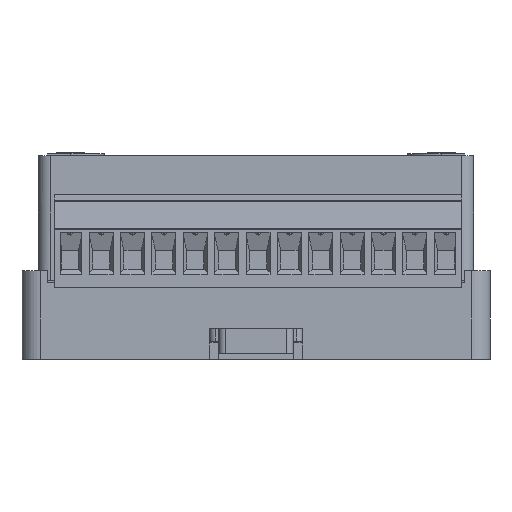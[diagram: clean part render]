
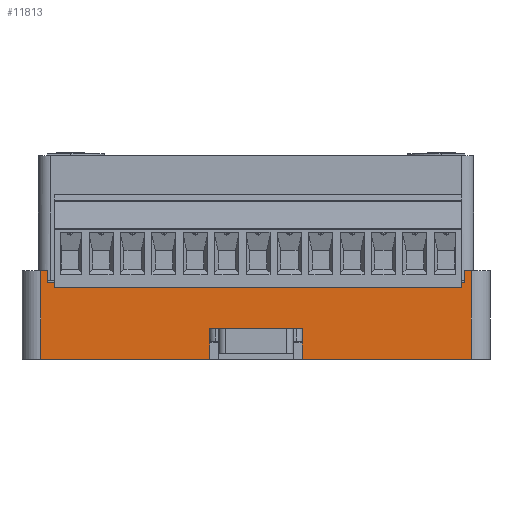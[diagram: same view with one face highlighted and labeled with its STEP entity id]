
A CAD part, front view. The second image highlights one B-rep face of the part: STEP entity #11813.
In plain terms, the highlighted planar face has unit normal (0, -1, 0).
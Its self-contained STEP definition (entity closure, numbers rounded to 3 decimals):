
#11813=ADVANCED_FACE('',(#67825),#67827,.F.);
#67825=FACE_BOUND('',#67826,.T.);
#67826=EDGE_LOOP('',(#109851,#109852,#109853,#109854,#109855,#109856,#109857,#109858,
#109859,#109860,#109861,#109862,#109863,#109864,#109865,#109866));
#67827=PLANE('',#67828);
#67828=AXIS2_PLACEMENT_3D('',#67829,#67830,#67831);
#67829=CARTESIAN_POINT('',(-37.9,-51.95,14.4));
#67830=DIRECTION('',(0.,1.,0.));
#67831=DIRECTION('',(0.,0.,1.));
#109851=ORIENTED_EDGE('',*,*,#152142,.F.);
#109852=ORIENTED_EDGE('',*,*,#152143,.F.);
#109853=ORIENTED_EDGE('',*,*,#152144,.T.);
#109854=ORIENTED_EDGE('',*,*,#152145,.T.);
#109855=ORIENTED_EDGE('',*,*,#152146,.T.);
#109856=ORIENTED_EDGE('',*,*,#151121,.F.);
#109857=ORIENTED_EDGE('',*,*,#151153,.T.);
#109858=ORIENTED_EDGE('',*,*,#151151,.F.);
#109859=ORIENTED_EDGE('',*,*,#151150,.T.);
#109860=ORIENTED_EDGE('',*,*,#151137,.F.);
#109861=ORIENTED_EDGE('',*,*,#152147,.T.);
#109862=ORIENTED_EDGE('',*,*,#152148,.T.);
#109863=ORIENTED_EDGE('',*,*,#152149,.F.);
#109864=ORIENTED_EDGE('',*,*,#152150,.F.);
#109865=ORIENTED_EDGE('',*,*,#152151,.F.);
#109866=ORIENTED_EDGE('',*,*,#151157,.F.);
#151121=EDGE_CURVE('',#170690,#170692,#170693,.T.);
#151137=EDGE_CURVE('',#170719,#170711,#170721,.T.);
#151150=EDGE_CURVE('',#170739,#170711,#170741,.T.);
#151151=EDGE_CURVE('',#170739,#170742,#170743,.T.);
#151153=EDGE_CURVE('',#170690,#170742,#170745,.T.);
#151157=EDGE_CURVE('',#170749,#170751,#170752,.T.);
#152142=EDGE_CURVE('',#172316,#170749,#172317,.T.);
#152143=EDGE_CURVE('',#172318,#172316,#172319,.T.);
#152144=EDGE_CURVE('',#172318,#172320,#172321,.T.);
#152145=EDGE_CURVE('',#172320,#172322,#172323,.T.);
#152146=EDGE_CURVE('',#172322,#170692,#172324,.T.);
#152147=EDGE_CURVE('',#170719,#172325,#172326,.T.);
#152148=EDGE_CURVE('',#172325,#172327,#172328,.T.);
#152149=EDGE_CURVE('',#172329,#172327,#172330,.T.);
#152150=EDGE_CURVE('',#172331,#172329,#172332,.T.);
#152151=EDGE_CURVE('',#170751,#172331,#172333,.T.);
#170690=VERTEX_POINT('',#212466);
#170692=VERTEX_POINT('',#212470);
#170693=LINE('',#212471,#212472);
#170711=VERTEX_POINT('',#212513);
#170719=VERTEX_POINT('',#212530);
#170721=LINE('',#212535,#212536);
#170739=VERTEX_POINT('',#212577);
#170741=LINE('',#212581,#212582);
#170742=VERTEX_POINT('',#212584);
#170743=LINE('',#212585,#212586);
#170745=LINE('',#212591,#212592);
#170749=VERTEX_POINT('',#212601);
#170751=VERTEX_POINT('',#212605);
#170752=LINE('',#212606,#212607);
#172316=VERTEX_POINT('',#216636);
#172317=LINE('',#216637,#216638);
#172318=VERTEX_POINT('',#216640);
#172319=LINE('',#216641,#216642);
#172320=VERTEX_POINT('',#216644);
#172321=LINE('',#216645,#216646);
#172322=VERTEX_POINT('',#216648);
#172323=LINE('',#216649,#216650);
#172324=LINE('',#216652,#216653);
#172325=VERTEX_POINT('',#216655);
#172326=LINE('',#216656,#216657);
#172327=VERTEX_POINT('',#216659);
#172328=LINE('',#216660,#216661);
#172329=VERTEX_POINT('',#216663);
#172330=LINE('',#216664,#216665);
#172331=VERTEX_POINT('',#216667);
#172332=LINE('',#216668,#216669);
#172333=LINE('',#216671,#216672);
#212466=CARTESIAN_POINT('',(33.85,-51.95,14.4));
#212470=CARTESIAN_POINT('',(34.9,-51.95,14.4));
#212471=CARTESIAN_POINT('',(33.85,-51.95,14.4));
#212472=VECTOR('',#212473,1.);
#212473=DIRECTION('',(1.,0.,0.));
#212513=CARTESIAN_POINT('',(-33.85,-51.95,14.4));
#212530=CARTESIAN_POINT('',(-34.9,-51.95,14.4));
#212535=CARTESIAN_POINT('',(-34.9,-51.95,14.4));
#212536=VECTOR('',#212537,1.);
#212537=DIRECTION('',(1.,0.,0.));
#212577=CARTESIAN_POINT('',(-33.85,-51.95,12.4));
#212581=CARTESIAN_POINT('',(-33.85,-51.95,12.4));
#212582=VECTOR('',#212583,1.);
#212583=DIRECTION('',(0.,0.,1.));
#212584=CARTESIAN_POINT('',(33.85,-51.95,12.4));
#212585=CARTESIAN_POINT('',(-33.85,-51.95,12.4));
#212586=VECTOR('',#212587,1.);
#212587=DIRECTION('',(1.,0.,0.));
#212591=CARTESIAN_POINT('',(33.85,-51.95,14.4));
#212592=VECTOR('',#212593,1.);
#212593=DIRECTION('',(0.,0.,-1.));
#212601=CARTESIAN_POINT('',(4.,-51.95,5.));
#212605=CARTESIAN_POINT('',(-4.,-51.95,5.));
#212606=CARTESIAN_POINT('',(4.,-51.95,5.));
#212607=VECTOR('',#212608,1.);
#212608=DIRECTION('',(-1.,0.,0.));
#216636=CARTESIAN_POINT('',(6.936,-51.95,5.));
#216637=CARTESIAN_POINT('',(6.936,-51.95,5.));
#216638=VECTOR('',#216639,1.);
#216639=DIRECTION('',(-1.,0.,0.));
#216640=CARTESIAN_POINT('',(7.5,-51.95,5.));
#216641=CARTESIAN_POINT('',(7.5,-51.95,5.));
#216642=VECTOR('',#216643,1.);
#216643=DIRECTION('',(-1.,0.,0.));
#216644=CARTESIAN_POINT('',(7.5,-51.95,0.));
#216645=CARTESIAN_POINT('',(7.5,-51.95,5.));
#216646=VECTOR('',#216647,1.);
#216647=DIRECTION('',(0.,0.,-1.));
#216648=CARTESIAN_POINT('',(34.9,-51.95,0.));
#216649=CARTESIAN_POINT('',(7.5,-51.95,0.));
#216650=VECTOR('',#216651,1.);
#216651=DIRECTION('',(1.,0.,0.));
#216652=CARTESIAN_POINT('',(34.9,-51.95,0.));
#216653=VECTOR('',#216654,1.);
#216654=DIRECTION('',(0.,0.,1.));
#216655=CARTESIAN_POINT('',(-34.9,-51.95,0.));
#216656=CARTESIAN_POINT('',(-34.9,-51.95,14.4));
#216657=VECTOR('',#216658,1.);
#216658=DIRECTION('',(0.,0.,-1.));
#216659=CARTESIAN_POINT('',(-7.5,-51.95,0.));
#216660=CARTESIAN_POINT('',(-34.9,-51.95,0.));
#216661=VECTOR('',#216662,1.);
#216662=DIRECTION('',(1.,0.,0.));
#216663=CARTESIAN_POINT('',(-7.5,-51.95,5.));
#216664=CARTESIAN_POINT('',(-7.5,-51.95,5.));
#216665=VECTOR('',#216666,1.);
#216666=DIRECTION('',(0.,0.,-1.));
#216667=CARTESIAN_POINT('',(-6.936,-51.95,5.));
#216668=CARTESIAN_POINT('',(-6.936,-51.95,5.));
#216669=VECTOR('',#216670,1.);
#216670=DIRECTION('',(-1.,0.,0.));
#216671=CARTESIAN_POINT('',(-4.,-51.95,5.));
#216672=VECTOR('',#216673,1.);
#216673=DIRECTION('',(-1.,0.,0.));
